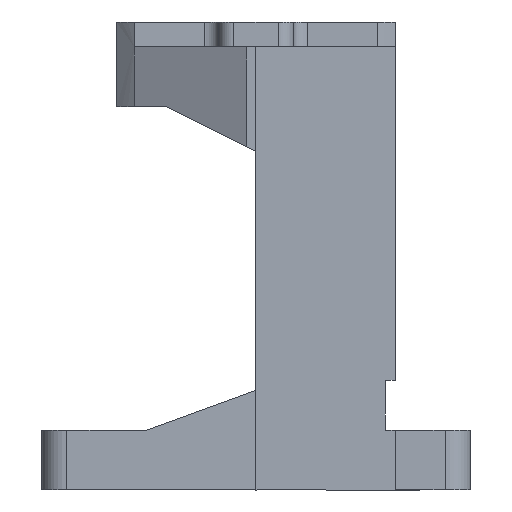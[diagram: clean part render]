
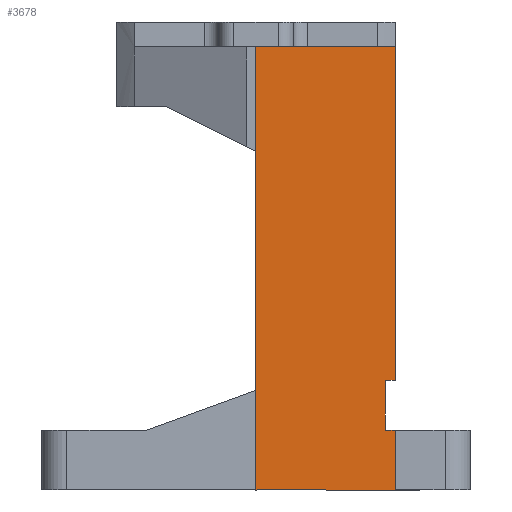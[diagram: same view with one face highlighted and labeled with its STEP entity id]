
A CAD part, left-side view. The second image highlights one B-rep face of the part: STEP entity #3678.
In plain terms, the highlighted planar face has unit normal (-1, 0, 0).
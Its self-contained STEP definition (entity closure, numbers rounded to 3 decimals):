
#77 = DIRECTION ( 'NONE',  ( 0., 0., -1. ) ) ;
#241 = FACE_OUTER_BOUND ( 'NONE', #3965, .T. ) ;
#269 = CARTESIAN_POINT ( 'NONE',  ( -44., -26., 5.5 ) ) ;
#334 = LINE ( 'NONE', #2336, #3679 ) ;
#537 = VERTEX_POINT ( 'NONE', #3774 ) ;
#658 = CARTESIAN_POINT ( 'NONE',  ( -44., -26., 5.5 ) ) ;
#841 = LINE ( 'NONE', #4150, #3974 ) ;
#855 = EDGE_CURVE ( 'NONE', #936, #2056, #946, .T. ) ;
#913 = CARTESIAN_POINT ( 'NONE',  ( -44., -28., 15.5 ) ) ;
#936 = VERTEX_POINT ( 'NONE', #957 ) ;
#946 = LINE ( 'NONE', #4147, #3431 ) ;
#957 = CARTESIAN_POINT ( 'NONE',  ( -44., -28., 5.5 ) ) ;
#1107 = VERTEX_POINT ( 'NONE', #2357 ) ;
#1115 = AXIS2_PLACEMENT_3D ( 'NONE', #2363, #1421, #3663 ) ;
#1148 = CARTESIAN_POINT ( 'NONE',  ( -44., -26., 5.5 ) ) ;
#1296 = VERTEX_POINT ( 'NONE', #913 ) ;
#1379 = LINE ( 'NONE', #4115, #3848 ) ;
#1408 = ORIENTED_EDGE ( 'NONE', *, *, #2348, .F. ) ;
#1421 = DIRECTION ( 'NONE',  ( 1., 0., 0. ) ) ;
#1580 = DIRECTION ( 'NONE',  ( 0., 0., -1. ) ) ;
#1756 = EDGE_CURVE ( 'NONE', #2056, #537, #1379, .T. ) ;
#1858 = CARTESIAN_POINT ( 'NONE',  ( -44., -28., 82.5 ) ) ;
#1881 = LINE ( 'NONE', #3869, #3498 ) ;
#1976 = VECTOR ( 'NONE', #3785, 1000. ) ;
#2056 = VERTEX_POINT ( 'NONE', #3626 ) ;
#2107 = ORIENTED_EDGE ( 'NONE', *, *, #2530, .F. ) ;
#2324 = CARTESIAN_POINT ( 'NONE',  ( -44., 0., 82.5 ) ) ;
#2334 = ORIENTED_EDGE ( 'NONE', *, *, #1756, .F. ) ;
#2336 = CARTESIAN_POINT ( 'NONE',  ( -44., -28., 15.5 ) ) ;
#2348 = EDGE_CURVE ( 'NONE', #1107, #4122, #2892, .T. ) ;
#2357 = CARTESIAN_POINT ( 'NONE',  ( -44., -26., 15.5 ) ) ;
#2363 = CARTESIAN_POINT ( 'NONE',  ( -44., -28., 82.5 ) ) ;
#2521 = DIRECTION ( 'NONE',  ( 0., 0., -1. ) ) ;
#2530 = EDGE_CURVE ( 'NONE', #3784, #3272, #3697, .T. ) ;
#2604 = EDGE_CURVE ( 'NONE', #537, #3784, #1881, .T. ) ;
#2667 = DIRECTION ( 'NONE',  ( 0., 0., 1. ) ) ;
#2730 = DIRECTION ( 'NONE',  ( 0., 1., 0. ) ) ;
#2892 = LINE ( 'NONE', #269, #2996 ) ;
#2996 = VECTOR ( 'NONE', #2521, 1000. ) ;
#3097 = ORIENTED_EDGE ( 'NONE', *, *, #855, .F. ) ;
#3167 = EDGE_CURVE ( 'NONE', #4122, #936, #3457, .T. ) ;
#3250 = VECTOR ( 'NONE', #3753, 1000. ) ;
#3272 = VERTEX_POINT ( 'NONE', #1858 ) ;
#3322 = ORIENTED_EDGE ( 'NONE', *, *, #4007, .F. ) ;
#3347 = PLANE ( 'NONE',  #1115 ) ;
#3431 = VECTOR ( 'NONE', #1580, 1000. ) ;
#3457 = LINE ( 'NONE', #1148, #3250 ) ;
#3498 = VECTOR ( 'NONE', #2667, 1000. ) ;
#3517 = DIRECTION ( 'NONE',  ( 0., 1., 0. ) ) ;
#3538 = ORIENTED_EDGE ( 'NONE', *, *, #3644, .F. ) ;
#3626 = CARTESIAN_POINT ( 'NONE',  ( -44., -28., -6.5 ) ) ;
#3631 = ORIENTED_EDGE ( 'NONE', *, *, #3167, .F. ) ;
#3644 = EDGE_CURVE ( 'NONE', #3272, #1296, #334, .T. ) ;
#3663 = DIRECTION ( 'NONE',  ( 0., -1., 0. ) ) ;
#3678 = ADVANCED_FACE ( 'NONE', ( #241 ), #3347, .F. ) ;
#3679 = VECTOR ( 'NONE', #77, 1000. ) ;
#3697 = LINE ( 'NONE', #2324, #1976 ) ;
#3753 = DIRECTION ( 'NONE',  ( 0., -1., 0. ) ) ;
#3774 = CARTESIAN_POINT ( 'NONE',  ( -44., 0., -6.5 ) ) ;
#3784 = VERTEX_POINT ( 'NONE', #4034 ) ;
#3785 = DIRECTION ( 'NONE',  ( 0., -1., 0. ) ) ;
#3848 = VECTOR ( 'NONE', #2730, 1000. ) ;
#3869 = CARTESIAN_POINT ( 'NONE',  ( -44., 0., 82.5 ) ) ;
#3965 = EDGE_LOOP ( 'NONE', ( #2107, #4095, #2334, #3097, #3631, #1408, #3322, #3538 ) ) ;
#3974 = VECTOR ( 'NONE', #3517, 1000. ) ;
#4007 = EDGE_CURVE ( 'NONE', #1296, #1107, #841, .T. ) ;
#4034 = CARTESIAN_POINT ( 'NONE',  ( -44., 0., 82.5 ) ) ;
#4095 = ORIENTED_EDGE ( 'NONE', *, *, #2604, .F. ) ;
#4115 = CARTESIAN_POINT ( 'NONE',  ( -44., 0., -6.5 ) ) ;
#4122 = VERTEX_POINT ( 'NONE', #658 ) ;
#4147 = CARTESIAN_POINT ( 'NONE',  ( -44., -28., -6.5 ) ) ;
#4150 = CARTESIAN_POINT ( 'NONE',  ( -44., -26., 15.5 ) ) ;
